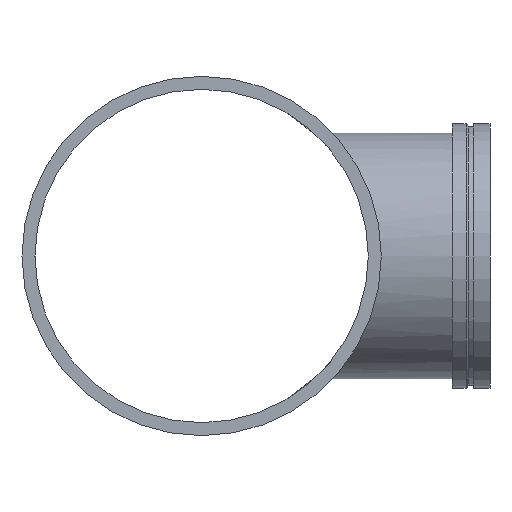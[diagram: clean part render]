
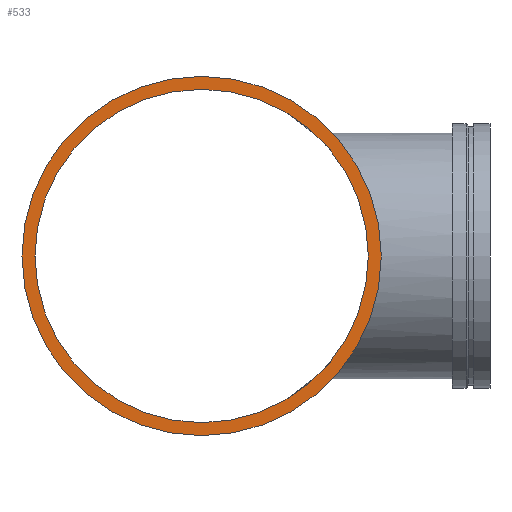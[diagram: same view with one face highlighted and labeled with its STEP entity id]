
A CAD part, left-side view. The second image highlights one B-rep face of the part: STEP entity #533.
In plain terms, the highlighted planar face has unit normal (-1, 0, 0).
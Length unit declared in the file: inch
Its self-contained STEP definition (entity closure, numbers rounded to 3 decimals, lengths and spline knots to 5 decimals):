
#58=FACE_BOUND('',#128,.T.);
#67=PLANE('',#626);
#92=FACE_OUTER_BOUND('',#127,.T.);
#127=EDGE_LOOP('',(#465,#466));
#128=EDGE_LOOP('',(#467,#468));
#151=CIRCLE('',#587,19.);
#152=CIRCLE('',#588,19.);
#175=CIRCLE('',#624,17.625);
#176=CIRCLE('',#625,17.625);
#239=VERTEX_POINT('',#1145);
#240=VERTEX_POINT('',#1147);
#263=VERTEX_POINT('',#1214);
#264=VERTEX_POINT('',#1216);
#299=EDGE_CURVE('',#239,#240,#151,.T.);
#300=EDGE_CURVE('',#240,#239,#152,.T.);
#331=EDGE_CURVE('',#264,#263,#175,.T.);
#332=EDGE_CURVE('',#263,#264,#176,.T.);
#465=ORIENTED_EDGE('',*,*,#300,.F.);
#466=ORIENTED_EDGE('',*,*,#299,.F.);
#467=ORIENTED_EDGE('',*,*,#331,.T.);
#468=ORIENTED_EDGE('',*,*,#332,.T.);
#533=ADVANCED_FACE('',(#92,#58),#67,.T.);
#587=AXIS2_PLACEMENT_3D('',#1148,#716,#717);
#588=AXIS2_PLACEMENT_3D('',#1149,#718,#719);
#624=AXIS2_PLACEMENT_3D('',#1217,#798,#799);
#625=AXIS2_PLACEMENT_3D('',#1218,#800,#801);
#626=AXIS2_PLACEMENT_3D('',#1219,#802,#803);
#716=DIRECTION('center_axis',(1.,0.,0.));
#717=DIRECTION('ref_axis',(0.,0.,1.));
#718=DIRECTION('center_axis',(1.,0.,0.));
#719=DIRECTION('ref_axis',(0.,0.,1.));
#798=DIRECTION('center_axis',(1.,0.,0.));
#799=DIRECTION('ref_axis',(0.,0.,1.));
#800=DIRECTION('center_axis',(1.,0.,0.));
#801=DIRECTION('ref_axis',(0.,0.,1.));
#802=DIRECTION('center_axis',(-1.,0.,0.));
#803=DIRECTION('ref_axis',(0.,0.,-1.));
#1145=CARTESIAN_POINT('',(-32.5,19.,0.));
#1147=CARTESIAN_POINT('',(-32.5,-19.,0.));
#1148=CARTESIAN_POINT('Origin',(-32.5,0.,0.));
#1149=CARTESIAN_POINT('Origin',(-32.5,0.,0.));
#1214=CARTESIAN_POINT('',(-32.5,17.625,0.));
#1216=CARTESIAN_POINT('',(-32.5,-17.625,0.));
#1217=CARTESIAN_POINT('Origin',(-32.5,0.,0.));
#1218=CARTESIAN_POINT('Origin',(-32.5,0.,0.));
#1219=CARTESIAN_POINT('Origin',(-32.5,-19.,0.));
